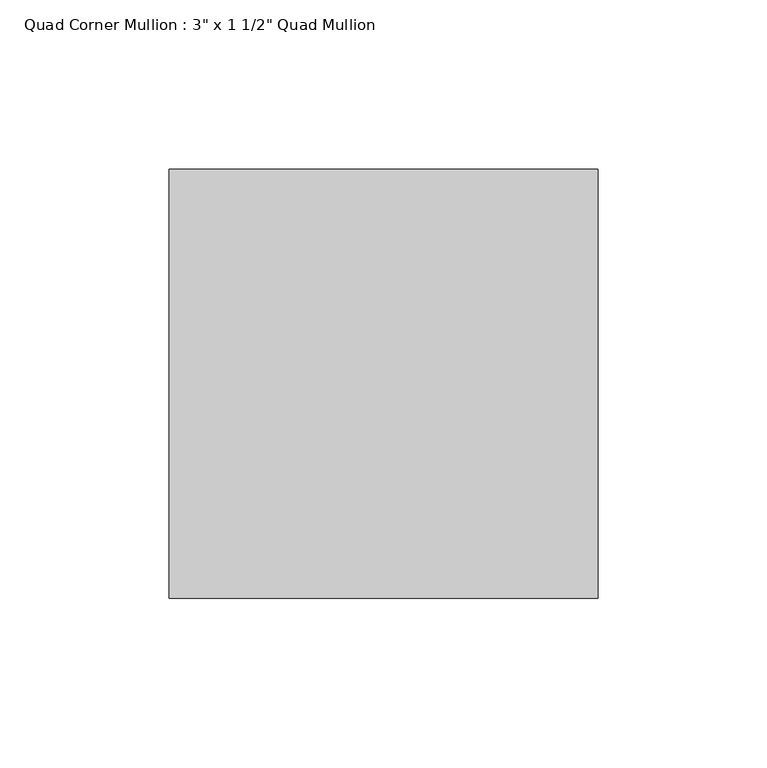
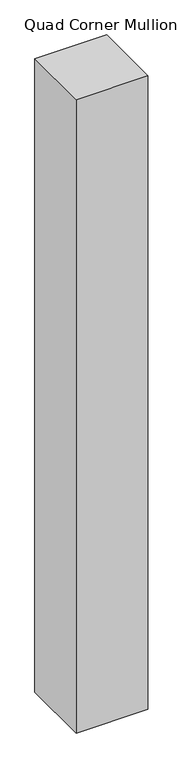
"""IFC4 building model written with IfcOpenShell, lengths in millimetres: member geometry."""

import ifcopenshell
import ifcopenshell.guid

model = None  # the IFC model being written
_history = None  # IfcOwnerHistory: only IFC2X3 demands one
_inside = {}  # id of a spatial element -> (the spatial element, [elements in it])
_under = {}  # id of a project, library or spatial element -> (it, [spatial elements below it])
_declared = {}  # id of a project -> (the project, [libraries it declares])
_typed = {}  # id of a type object -> (the type object, [elements of that type])
_made_of = {}  # id of a material, layer set ... -> (it, [elements and type objects made of it])


def new_model(schema):
    """Start an empty IFC model of exactly this schema.

    Asked for "IFC4X3", IfcOpenShell would pick the latest addendum, in which some entities
    have other attributes; the version numbers below select the first issue.
    IFC2X3 requires an IfcOwnerHistory on every rooted entity: one is made here for all.
    """
    global model, _history
    if schema == "IFC4X3":
        model = ifcopenshell.file(schema_version=(4, 3, 0, 0))
    else:
        model = ifcopenshell.file(schema=schema)
    _inside.clear()
    _under.clear()
    _declared.clear()
    _typed.clear()
    _made_of.clear()
    _history = None
    if model.schema == "IFC2X3":
        org = make("IfcOrganization", Name="unknown")
        user = make(
            "IfcPersonAndOrganization",
            ThePerson=make("IfcPerson", FamilyName="unknown"),
            TheOrganization=org,
        )
        app = make(
            "IfcApplication",
            ApplicationDeveloper=org,
            Version="unknown",
            ApplicationFullName="unknown",
            ApplicationIdentifier="unknown",
        )
        _history = make(
            "IfcOwnerHistory",
            OwningUser=user,
            OwningApplication=app,
            ChangeAction="ADDED",
            CreationDate=0,
        )
    return model


def make(cls, **values):
    """One entity of the class cls with the attributes given. An attribute that is None is left unset."""
    return model.create_entity(
        cls, **{name: value for name, value in values.items() if value is not None}
    )


def rooted(cls, **values):
    """An entity with a GlobalId (a new one), such as an element, a storey or a relation."""
    return make(cls, GlobalId=ifcopenshell.guid.new(), OwnerHistory=_history, **values)


def si_unit(unit_type, name, prefix=None):
    """IfcSIUnit, for example si_unit("LENGTHUNIT", "METRE", prefix="MILLI")."""
    return make("IfcSIUnit", UnitType=unit_type, Prefix=prefix, Name=name)


def assignment(units):
    """IfcUnitAssignment: the units of a project."""
    return None if units is None else make("IfcUnitAssignment", Units=units)


def point(xyz):
    """IfcCartesianPoint."""
    return None if xyz is None else make("IfcCartesianPoint", Coordinates=xyz)


def direction(xyz):
    """IfcDirection."""
    return None if xyz is None else make("IfcDirection", DirectionRatios=xyz)


def frame(location, z_axis=None, x_axis=None):
    """IfcAxis2Placement3D, a coordinate frame: its origin and axes. An axis left out is left unset."""
    return make(
        "IfcAxis2Placement3D",
        Location=point(location),
        Axis=direction(z_axis),
        RefDirection=direction(x_axis),
    )


def origin():
    """The frame at (0, 0, 0) with its axes left unset."""
    return frame((0.0, 0.0, 0.0))


def place(relative_to, where):
    """IfcLocalPlacement: puts the frame where relative to a parent placement (None: the world)."""
    return make(
        "IfcLocalPlacement", PlacementRelTo=relative_to, RelativePlacement=where
    )


def context(
    kind, dimensions, precision=None, world=None, true_north=None, identifier=None
):
    """IfcGeometricRepresentationContext, for example the 3D "Model" context."""
    return make(
        "IfcGeometricRepresentationContext",
        ContextIdentifier=identifier,
        ContextType=kind,
        CoordinateSpaceDimension=dimensions,
        Precision=precision,
        WorldCoordinateSystem=world,
        TrueNorth=true_north,
    )


def project(units=None, contexts=None):
    """IfcProject with its units and contexts."""
    return rooted(
        "IfcProject",
        Name="project",
        RepresentationContexts=contexts,
        UnitsInContext=assignment(units),
    )


def spatial(cls, under=None, at=None, **own):
    """A site, building, storey or space (cls), placed at a placement, below another one or the project."""
    s = rooted(cls, ObjectPlacement=at, **own)
    if under is not None:
        _under.setdefault(under.id(), (under, []))[1].append(s)
    return s


def polyline(points):
    """IfcPolyline through the points."""
    return make("IfcPolyline", Points=[point(p) for p in points])


def outline(outer, holes=None, kind="AREA"):
    """IfcArbitraryClosedProfileDef: a profile drawn as a closed curve; with holes, ...WithVoids."""
    if holes is None:
        return make("IfcArbitraryClosedProfileDef", ProfileType=kind, OuterCurve=outer)
    return make(
        "IfcArbitraryProfileDefWithVoids",
        ProfileType=kind,
        OuterCurve=outer,
        InnerCurves=holes,
    )


def extrude(swept, where, along, depth):
    """IfcExtrudedAreaSolid: the profile swept, set in the frame where, extruded along a direction by depth."""
    return make(
        "IfcExtrudedAreaSolid",
        SweptArea=swept,
        Position=where,
        ExtrudedDirection=direction(along),
        Depth=depth,
    )


def shape(context_of_items, identifier, shape_type, items):
    """IfcShapeRepresentation: the items that make up one representation, for example the "Body"."""
    return make(
        "IfcShapeRepresentation",
        ContextOfItems=context_of_items,
        RepresentationIdentifier=identifier,
        RepresentationType=shape_type,
        Items=items,
    )


def source(mapping_origin, context_of_items, identifier, shape_type, items):
    """IfcRepresentationMap: a shape defined once, which mapped items show again and again."""
    return make(
        "IfcRepresentationMap",
        MappingOrigin=mapping_origin,
        MappedRepresentation=shape(context_of_items, identifier, shape_type, items),
    )


def transform(
    local_origin,
    x_axis=None,
    y_axis=None,
    z_axis=None,
    scale=None,
    scale2=None,
    scale3=None,
    uniform=True,
):
    """IfcCartesianTransformationOperator3D, or its non-uniform kind. x_axis, y_axis, z_axis: its Axis1, 2, 3."""
    if uniform:
        return make(
            "IfcCartesianTransformationOperator3D",
            Axis1=direction(x_axis),
            Axis2=direction(y_axis),
            LocalOrigin=point(local_origin),
            Scale=scale,
            Axis3=direction(z_axis),
        )
    return make(
        "IfcCartesianTransformationOperator3DnonUniform",
        Axis1=direction(x_axis),
        Axis2=direction(y_axis),
        LocalOrigin=point(local_origin),
        Scale=scale,
        Axis3=direction(z_axis),
        Scale2=scale2,
        Scale3=scale3,
    )


def mapped(mapping_source, mapping_target):
    """IfcMappedItem: shows the shape of a source again, moved by a transform."""
    return make(
        "IfcMappedItem", MappingSource=mapping_source, MappingTarget=mapping_target
    )


def made_of(thing, what):
    """Note that an element or type object is made of a material, layer set ...; save() writes the relation."""
    if what is not None:
        _made_of.setdefault(what.id(), (what, []))[1].append(thing)
    return thing


def element(
    cls,
    number,
    at=None,
    inside=None,
    cuts=None,
    type_object=None,
    material=None,
    context=None,
    identifier="Body",
    shape_type=None,
    held_by="IfcProductDefinitionShape",
    body=None,
    shapes=None,
    **own,
):
    """One element of the class cls, such as IfcWall. Its Tag is "e" and its number.

    at: its placement. inside: the storey or other place that contains it. cuts: it is an
    opening in that element (IfcRelVoidsElement). A single representation is given by context,
    identifier, shape_type and body (its items); several are given by shapes. held_by: the class
    of the entity that holds the representations. save() writes the other relations.
    """
    e = rooted(cls, Tag="e%d" % number, ObjectPlacement=at, **own)
    if body is not None:
        shapes = [shape(context, identifier, shape_type, body)]
    if shapes is not None:
        e.Representation = make(held_by, Representations=shapes)
    if inside is not None:
        _inside.setdefault(inside.id(), (inside, []))[1].append(e)
    if cuts is not None:
        rooted(
            "IfcRelVoidsElement", RelatingBuildingElement=cuts, RelatedOpeningElement=e
        )
    if type_object is not None:
        _typed.setdefault(type_object.id(), (type_object, []))[1].append(e)
    return made_of(e, material)


def aggregate(whole, parts):
    """IfcRelAggregates: a whole, such as a stair, and the parts it consists of."""
    return rooted("IfcRelAggregates", RelatingObject=whole, RelatedObjects=parts)


def save(model, path):
    """Write the relations noted so far, then the file.

    IfcRelAggregates (storeys below a building ...), IfcRelContainedInSpatialStructure (elements
    in a storey), IfcRelDefinesByType, IfcRelAssociatesMaterial and IfcRelDeclares: one each for
    every whole, place, type object, material and project.
    """
    for whole, parts in _under.values():
        aggregate(whole, parts)
    for where, things in _inside.values():
        rooted(
            "IfcRelContainedInSpatialStructure",
            RelatedElements=things,
            RelatingStructure=where,
        )
    for kind, things in _typed.values():
        rooted("IfcRelDefinesByType", RelatedObjects=things, RelatingType=kind)
    for what, things in _made_of.values():
        rooted("IfcRelAssociatesMaterial", RelatedObjects=things, RelatingMaterial=what)
    for by, libraries in _declared.values():
        rooted("IfcRelDeclares", RelatingContext=by, RelatedDefinitions=libraries)
    model.write(path)


def member_cf64a30b(model_context):
    return source(origin(), model_context, "Body", "SweptSolid", [
        extrude(outline(polyline([(63.5, 63.5), (63.5, -63.5), (-63.5, -63.5), (-63.5, 63.5), (63.5, 63.5)])), frame((0.0, 0.0, -1187.45), z_axis=(0.0, 0.0, 1.0), x_axis=(1.0, 0.0, 0.0)), (0.0, 0.0, 1.0), 1187.45),
    ])


if __name__ == "__main__":
    model = new_model("IFC4")
    model_context = context("Model", 3, world=origin())
    ifc_project = project(units=[si_unit("LENGTHUNIT", "METRE", prefix="MILLI")], contexts=[model_context])
    site = spatial("IfcSite", under=ifc_project)
    building = spatial("IfcBuilding", under=site)
    placement = place(None, origin())
    member_shape = member_cf64a30b(model_context)
    element("IfcMember", 1, ObjectType="Quad Corner Mullion : 3\" x 1 1/2\" Quad Mullion", at=placement, inside=building, context=model_context, shape_type="MappedRepresentation", body=[
        mapped(member_shape, transform((0.0, 0.0, 0.0), x_axis=(1.0, 0.0, 0.0), y_axis=(0.0, 1.0, 0.0), z_axis=(0.0, 0.0, 1.0))),
    ])
    save(model, "model.ifc")
